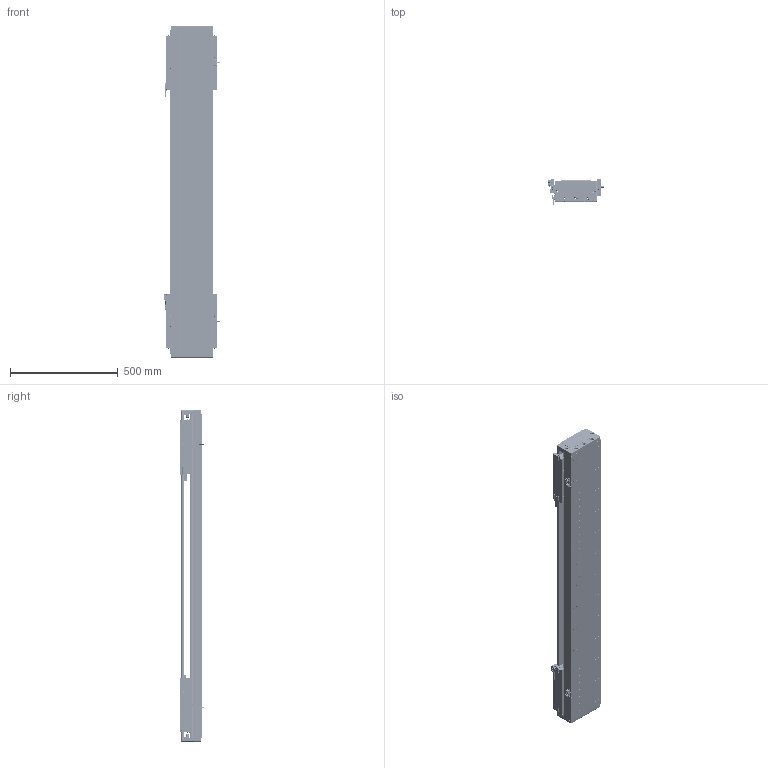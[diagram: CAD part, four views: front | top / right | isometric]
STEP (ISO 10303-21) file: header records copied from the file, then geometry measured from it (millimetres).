
FILE_DESCRIPTION (( 'STEP AP203' ), '1' );
FILE_NAME ('DA-C195-2-C3-T920-C010-0.2 眻盄萇儂.STEP', '2025-08-14T11:01:48', ( '' ), ( '' ), 'SwSTEP 2.0', 'SolidWorks 2019', '' );
FILE_SCHEMA (( 'CONFIG_CONTROL_DESIGN' ));
Length unit declared in the file: millimetre
Products named in the file (16): CU195-C3賑輸-俋楷; DA195-DG-H-00  端盖（压铸镂空版）; DKW168-HXJ-ZJ-00 笢潔滅袉砎蝶; 葩璃 DA95-GT-T-00; IU-CU195-L 菁釱絳寢; 66156-0001-003-00 裔啣; PM-T45ㄗ侂狟ㄘ; DA95-HXJ-00 遣喳砎蝶; DA-C195-2-C3-T920-C010-0.2 眻盄萇儂; DA165-GYP-00 光电感应片(默认); LMT黍杅芛; DKW-KGZ-ZJ-00 中间光电开关支架; DKW-GYP-ZJ-00 笢潔嫖萇覜茼え; IU-CU195-L-00 菁釱(L1500); PM-Y65嫖萇羲壽郪璃; MS200 棠掑喜S315-T240
Assembly tree (28 placements, depth 3):
  DA-C195-2-C3-T920-C010-0.2 眻盄萇儂
    IU-CU195-L 菁釱絳寢
      IU-CU195-L-00 菁釱(L1500)
      葩璃 DA95-GT-T-00  x4
    LMT黍杅芛  x2
    MS200 棠掑喜S315-T240
    PM-T45ㄗ侂狟ㄘ  x4
    DA165-GYP-00 光电感应片(默认)  x2
    DA195-DG-H-00  端盖（压铸镂空版）  x2
    DA95-HXJ-00 遣喳砎蝶  x4
    PM-Y65嫖萇羲壽郪璃
    66156-0001-003-00 裔啣
    DKW168-HXJ-ZJ-00 笢潔滅袉砎蝶
    DKW-GYP-ZJ-00 笢潔嫖萇覜茼え
    DKW-KGZ-ZJ-00 中间光电开关支架
    CU195-C3賑輸-俋楷  x2
Bounding box: 258.2 x 115.6 x 1540 mm (x, y, z)
Volume: 12359278.1 mm3; surface area: 3409351.4 mm2
Topology: 146 solids, 218 shells, 7912 faces, 20200 edges, 12327 vertices
Faces by surface type: cylinder 3336, plane 2792, cone 914, bspline 718, torus 80, sphere 72
Entity records: 162625 total; most frequent: CARTESIAN_POINT 50358, ORIENTED_EDGE 23586, DIRECTION 22216, EDGE_CURVE 11793, AXIS2_PLACEMENT_3D 8115, VERTEX_POINT 7480, VECTOR 5986, LINE 5986
